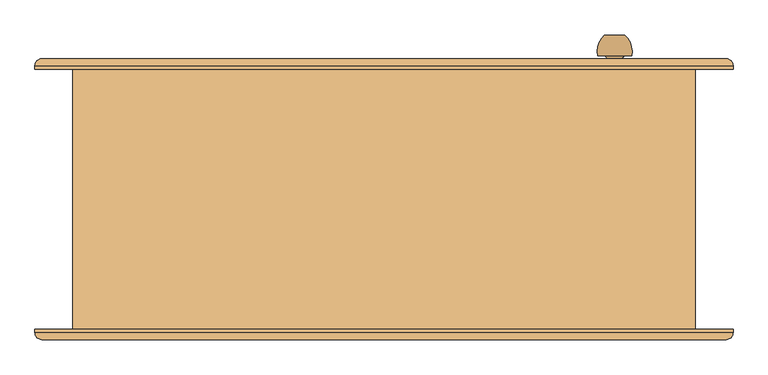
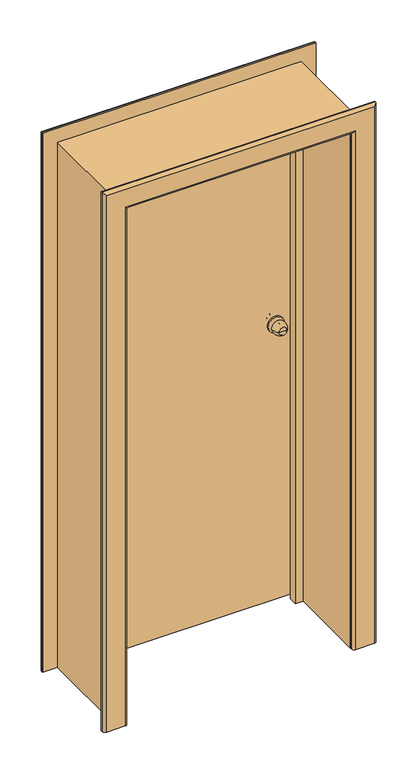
"""IFC4 building model written with IfcOpenShell, lengths in millimetres: door geometry, Внутренняя дверь 1-Навесная - 6629-88 : ДГ 21-9Л  ГОСТ 6629-88."""

from ifc_helpers import new_model, si_unit, point, frame, origin, place, context, project, spatial, polyline, circle_curve, ellipse_curve, trimmed, outline, extrude, faceted_brep, source, transform, mapped, element, save
from ifc_brep_helpers import plane_surface, cylinder_surface, revolved_surface, advanced_brep


def door_972d3b8f(model_context):
    return source(origin(), model_context, "Body", "SolidModel", [
        advanced_brep(
        [(352.0, 240.0, 1100.0), (337.0, 240.0, 1100.0), (322.0, 240.0, 1100.0), (312.0, 210.0, 1100.0), (362.0, 210.0, 1100.0), (319.0, 210.0, 1100.0), (355.0, 210.0, 1100.0), (327.0, 202.0, 1100.0), (347.0, 202.0, 1100.0), (327.0, 196.0, 1100.0), (347.0, 196.0, 1100.0), (307.0, 196.0, 1100.0), (367.0, 196.0, 1100.0), (307.0, 190.0, 1100.0), (367.0, 190.0, 1100.0)],
        [
            (0, 1),
            (1, 2),
            (2, 0, circle_curve(frame((337.0, 240.0, 1100.0), z_axis=(0.0, 1.0, 0.0), x_axis=(-1.0, 0.0, 0.0)), 15.0)),
            (0, 2, circle_curve(frame((337.0, 240.0, 1100.0), z_axis=(0.0, 1.0, 0.0), x_axis=(-1.0, 0.0, 0.0)), 15.0)),
            (2, 3, circle_curve(frame((346.6226265, 215.1257912, 1100.0), z_axis=(0.0, 0.0, 1.0), x_axis=(1.0, 0.0, 0.0)), 35.0)),
            (3, 4, circle_curve(frame((337.0, 210.0, 1100.0), z_axis=(0.0, 1.0, 0.0), x_axis=(-1.0, 0.0, 0.0)), 25.0)),
            (4, 0, circle_curve(frame((327.3773735, 215.1257912, 1100.0), z_axis=(0.0, 0.0, 1.0), x_axis=(-1.0, 0.0, 0.0)), 35.0)),
            (4, 3, circle_curve(frame((337.0, 210.0, 1100.0), z_axis=(0.0, 1.0, 0.0), x_axis=(-1.0, 0.0, 0.0)), 25.0)),
            (3, 5),
            (5, 6, circle_curve(frame((337.0, 210.0, 1100.0), z_axis=(0.0, 1.0, 0.0), x_axis=(-1.0, 0.0, 0.0)), 18.0)),
            (6, 4),
            (6, 5, circle_curve(frame((337.0, 210.0, 1100.0), z_axis=(0.0, 1.0, 0.0), x_axis=(-1.0, 0.0, 0.0)), 18.0)),
            (5, 7, circle_curve(frame((319.0, 202.0, 1100.0), z_axis=(0.0, 0.0, -1.0), x_axis=(1.0, 0.0, 0.0)), 8.0)),
            (7, 8, circle_curve(frame((337.0, 202.0, 1100.0), z_axis=(0.0, 1.0, 0.0), x_axis=(-1.0, 0.0, 0.0)), 10.0)),
            (8, 6, circle_curve(frame((355.0, 202.0, 1100.0), z_axis=(0.0, 0.0, -1.0), x_axis=(-1.0, 0.0, 0.0)), 8.0)),
            (8, 7, circle_curve(frame((337.0, 202.0, 1100.0), z_axis=(0.0, 1.0, 0.0), x_axis=(-1.0, 0.0, 0.0)), 10.0)),
            (7, 9),
            (9, 10, circle_curve(frame((337.0, 196.0, 1100.0), z_axis=(0.0, 1.0, 0.0), x_axis=(-1.0, 0.0, 0.0)), 10.0)),
            (10, 8),
            (10, 9, circle_curve(frame((337.0, 196.0, 1100.0), z_axis=(0.0, 1.0, 0.0), x_axis=(-1.0, 0.0, 0.0)), 10.0)),
            (11, 12, circle_curve(frame((337.0, 196.0, 1100.0), z_axis=(0.0, 1.0, 0.0), x_axis=(1.0, 0.0, 0.0)), 30.0)),
            (12, 11, circle_curve(frame((337.0, 196.0, 1100.0), z_axis=(0.0, 1.0, 0.0), x_axis=(1.0, 0.0, 0.0)), 30.0)),
            (13, 14, circle_curve(frame((337.0, 190.0, 1100.0), z_axis=(0.0, -1.0, 0.0), x_axis=(1.0, 0.0, 0.0)), 30.0)),
            (14, 13, circle_curve(frame((337.0, 190.0, 1100.0), z_axis=(0.0, -1.0, 0.0), x_axis=(1.0, 0.0, 0.0)), 30.0)),
            (12, 14),
            (13, 11),
        ],
        [
            plane_surface(frame((337.0, 240.0, 1100.0), z_axis=(0.0, 1.0, 0.0), x_axis=(-1.0, 0.0, 0.0))),
            revolved_surface(trimmed(ellipse_curve(frame((346.6226265, 215.1257912, 1100.0), z_axis=(0.0, 0.0, 1.0), x_axis=(1.0, 0.0, 0.0)), 35.0, 35.0), [point((322.0, 240.0, 1100.0))], [point((312.0, 210.0, 1100.0))], True, "CARTESIAN"), (337.0, 270.0, 1100.0), (0.0, -1.0, 0.0)),
            plane_surface(frame((337.0, 210.0, 1100.0), z_axis=(0.0, -1.0, 0.0), x_axis=(-1.0, 0.0, 0.0))),
            revolved_surface(trimmed(ellipse_curve(frame((319.0, 202.0, 1100.0), z_axis=(0.0, 0.0, -1.0), x_axis=(1.0, 0.0, 0.0)), 8.0, 8.0), [point((319.0, 210.0, 1100.0))], [point((327.0, 202.0, 1100.0))], True, "CARTESIAN"), (337.0, 270.0, 1100.0), (0.0, -1.0, 0.0)),
            cylinder_surface(frame((337.0, 270.0, 1100.0), z_axis=(0.0, -1.0, 0.0), x_axis=(-1.0, 0.0, 0.0)), 10.0),
            plane_surface(frame((367.0, 196.0, 1100.0), z_axis=(0.0, 1.0, 0.0), x_axis=(0.0, 0.0, 1.0))),
            plane_surface(frame((367.0, 190.0, 1100.0), z_axis=(0.0, -1.0, 0.0), x_axis=(0.0, 0.0, -1.0))),
            cylinder_surface(frame((337.0, 190.0, 1100.0), z_axis=(0.0, 1.0, 0.0), x_axis=(1.0, 0.0, 0.0)), 30.0),
        ],
        [
            (0, [[1, 2, 3]]),
            (0, [[-1, 4, -2]]),
            (1, [[5, 6, 7, -3]]),
            (1, [[-7, 8, -5, -4]]),
            (2, [[9, 10, 11, -6]]),
            (2, [[-11, 12, -9, -8]]),
            (3, [[13, 14, 15, -10]]),
            (3, [[-15, 16, -13, -12]]),
            (4, [[17, 18, 19, -14]]),
            (4, [[-19, 20, -17, -16]]),
            (5, [[21, 22], [-20, -18]]),
            (6, [[23, 24]]),
            (7, [[25, -23, 26, -22]]),
            (7, [[-26, -24, -25, -21]]),
        ],
    ),
        advanced_brep(
        [(322.0, 103.0, 1100.0), (337.0, 103.0, 1100.0), (352.0, 103.0, 1100.0), (362.0, 133.0, 1100.0), (312.0, 133.0, 1100.0), (355.0, 133.0, 1100.0), (319.0, 133.0, 1100.0), (347.0, 141.0, 1100.0), (327.0, 141.0, 1100.0), (347.0, 147.0, 1100.0), (327.0, 147.0, 1100.0), (367.0, 147.0, 1100.0), (307.0, 147.0, 1100.0), (367.0, 153.0, 1100.0), (307.0, 153.0, 1100.0)],
        [
            (0, 1),
            (1, 2),
            (2, 0, circle_curve(frame((337.0, 103.0, 1100.0), z_axis=(0.0, -1.0, 0.0), x_axis=(1.0, 0.0, 0.0)), 15.0)),
            (0, 2, circle_curve(frame((337.0, 103.0, 1100.0), z_axis=(0.0, -1.0, 0.0), x_axis=(1.0, 0.0, 0.0)), 15.0)),
            (2, 3, circle_curve(frame((327.3773735, 127.8742088, 1100.0), z_axis=(0.0, 0.0, 1.0), x_axis=(-1.0, 0.0, 0.0)), 35.0)),
            (3, 4, circle_curve(frame((337.0, 133.0, 1100.0), z_axis=(0.0, -1.0, 0.0), x_axis=(1.0, 0.0, 0.0)), 25.0)),
            (4, 0, circle_curve(frame((346.6226265, 127.8742088, 1100.0), z_axis=(0.0, 0.0, 1.0), x_axis=(1.0, 0.0, 0.0)), 35.0)),
            (4, 3, circle_curve(frame((337.0, 133.0, 1100.0), z_axis=(0.0, -1.0, 0.0), x_axis=(1.0, 0.0, 0.0)), 25.0)),
            (3, 5),
            (5, 6, circle_curve(frame((337.0, 133.0, 1100.0), z_axis=(0.0, -1.0, 0.0), x_axis=(1.0, 0.0, 0.0)), 18.0)),
            (6, 4),
            (6, 5, circle_curve(frame((337.0, 133.0, 1100.0), z_axis=(0.0, -1.0, 0.0), x_axis=(1.0, 0.0, 0.0)), 18.0)),
            (5, 7, circle_curve(frame((355.0, 141.0, 1100.0), z_axis=(0.0, 0.0, -1.0), x_axis=(-1.0, 0.0, 0.0)), 8.0)),
            (7, 8, circle_curve(frame((337.0, 141.0, 1100.0), z_axis=(0.0, -1.0, 0.0), x_axis=(1.0, 0.0, 0.0)), 10.0)),
            (8, 6, circle_curve(frame((319.0, 141.0, 1100.0), z_axis=(0.0, 0.0, -1.0), x_axis=(1.0, 0.0, 0.0)), 8.0)),
            (8, 7, circle_curve(frame((337.0, 141.0, 1100.0), z_axis=(0.0, -1.0, 0.0), x_axis=(1.0, 0.0, 0.0)), 10.0)),
            (7, 9),
            (9, 10, circle_curve(frame((337.0, 147.0, 1100.0), z_axis=(0.0, -1.0, 0.0), x_axis=(1.0, 0.0, 0.0)), 10.0)),
            (10, 8),
            (10, 9, circle_curve(frame((337.0, 147.0, 1100.0), z_axis=(0.0, -1.0, 0.0), x_axis=(1.0, 0.0, 0.0)), 10.0)),
            (11, 12, circle_curve(frame((337.0, 147.0, 1100.0), z_axis=(0.0, -1.0, 0.0), x_axis=(-1.0, 0.0, 0.0)), 30.0)),
            (12, 11, circle_curve(frame((337.0, 147.0, 1100.0), z_axis=(0.0, -1.0, 0.0), x_axis=(-1.0, 0.0, 0.0)), 30.0)),
            (13, 14, circle_curve(frame((337.0, 153.0, 1100.0), z_axis=(0.0, 1.0, 0.0), x_axis=(-1.0, 0.0, 0.0)), 30.0)),
            (14, 13, circle_curve(frame((337.0, 153.0, 1100.0), z_axis=(0.0, 1.0, 0.0), x_axis=(-1.0, 0.0, 0.0)), 30.0)),
            (12, 14),
            (13, 11),
        ],
        [
            plane_surface(frame((337.0, 103.0, 1100.0), z_axis=(0.0, -1.0, 0.0), x_axis=(1.0, 0.0, 0.0))),
            revolved_surface(trimmed(ellipse_curve(frame((327.3773735, 127.8742088, 1100.0), z_axis=(0.0, 0.0, 1.0), x_axis=(-1.0, 0.0, 0.0)), 35.0, 35.0), [point((352.0, 103.0, 1100.0))], [point((362.0, 133.0, 1100.0))], True, "CARTESIAN"), (337.0, 73.0, 1100.0), (0.0, 1.0, 0.0)),
            plane_surface(frame((337.0, 133.0, 1100.0), z_axis=(0.0, 1.0, 0.0), x_axis=(1.0, 0.0, 0.0))),
            revolved_surface(trimmed(ellipse_curve(frame((355.0, 141.0, 1100.0), z_axis=(0.0, 0.0, -1.0), x_axis=(-1.0, 0.0, 0.0)), 8.0, 8.0), [point((355.0, 133.0, 1100.0))], [point((347.0, 141.0, 1100.0))], True, "CARTESIAN"), (337.0, 73.0, 1100.0), (0.0, 1.0, 0.0)),
            cylinder_surface(frame((337.0, 73.0, 1100.0), z_axis=(0.0, 1.0, 0.0), x_axis=(1.0, 0.0, 0.0)), 10.0),
            plane_surface(frame((307.0, 147.0, 1100.0), z_axis=(0.0, -1.0, 0.0), x_axis=(0.0, 0.0, 1.0))),
            plane_surface(frame((307.0, 153.0, 1100.0), z_axis=(0.0, 1.0, 0.0), x_axis=(0.0, 0.0, -1.0))),
            cylinder_surface(frame((337.0, 153.0, 1100.0), z_axis=(0.0, -1.0, 0.0), x_axis=(-1.0, 0.0, 0.0)), 30.0),
        ],
        [
            (0, [[1, 2, 3]]),
            (0, [[-1, 4, -2]]),
            (1, [[5, 6, 7, -3]]),
            (1, [[-7, 8, -5, -4]]),
            (2, [[9, 10, 11, -6]]),
            (2, [[-11, 12, -9, -8]]),
            (3, [[13, 14, 15, -10]]),
            (3, [[-15, 16, -13, -12]]),
            (4, [[17, 18, 19, -14]]),
            (4, [[-19, 20, -17, -16]]),
            (5, [[21, 22], [-20, -18]]),
            (6, [[23, 24]]),
            (7, [[25, -23, 26, -22]]),
            (7, [[-26, -24, -25, -21]]),
        ],
    ),
        extrude(outline(polyline([(0.0, 435.0), (2050.0, 435.0), (2050.0, -435.0), (0.0, -435.0), (0.0, -420.0), (2035.0, -420.0), (2035.0, 420.0), (0.0, 420.0), (0.0, 435.0)])), frame((0.0, -190.0, 0.0), z_axis=(0.0, 1.0, 0.0), x_axis=(0.0, 0.0, 1.0)), (0.0, 0.0, 1.0), 306.0),
        advanced_brep(
        [(-510.0, 190.0, 0.0), (-510.0, 195.0, 0.0), (-500.0, 205.0, 0.0), (-430.0, 205.0, 0.0), (-420.0, 195.0, 0.0), (-420.0, 190.0, 0.0), (-420.0, 190.0, 2035.0), (420.0, 190.0, 2035.0), (420.0, 190.0, 0.0), (510.0, 190.0, 0.0), (510.0, 190.0, 2125.0), (-510.0, 190.0, 2125.0), (-420.0, 195.0, 2035.0), (-430.0, 205.0, 2045.0), (-500.0, 205.0, 2115.0), (500.0, 205.0, 2115.0), (500.0, 205.0, 0.0), (430.0, 205.0, 0.0), (430.0, 205.0, 2045.0), (-510.0, 195.0, 2125.0), (510.0, 195.0, 0.0), (510.0, 195.0, 2125.0), (420.0, 195.0, 0.0), (420.0, 195.0, 2035.0)],
        [
            (0, 1),
            (1, 2, circle_curve(frame((-500.0, 195.0, 0.0), z_axis=(0.0, 0.0, -1.0), x_axis=(-1.0, 0.0, 0.0)), 10.0)),
            (2, 3),
            (3, 4, circle_curve(frame((-430.0, 195.0, 0.0), z_axis=(0.0, 0.0, -1.0), x_axis=(-1.0, 0.0, 0.0)), 10.0)),
            (4, 5),
            (5, 0),
            (5, 6),
            (6, 7),
            (7, 8),
            (8, 9),
            (9, 10),
            (10, 11),
            (11, 0),
            (4, 12),
            (12, 6),
            (3, 13),
            (13, 12, ellipse_curve(frame((-430.0, 195.0, 2045.0), z_axis=(-0.7071067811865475, 0.0, -0.7071067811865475), x_axis=(0.7071067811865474, 0.0, -0.7071067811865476)), 14.1421356, 10.0)),
            (2, 14),
            (14, 15),
            (15, 16),
            (16, 17),
            (17, 18),
            (18, 13),
            (1, 19),
            (19, 14, ellipse_curve(frame((-500.0, 195.0, 2115.0), z_axis=(-0.7071067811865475, 0.0, -0.7071067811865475), x_axis=(0.7071067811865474, 0.0, -0.7071067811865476)), 14.1421356, 10.0)),
            (11, 19),
            (9, 20),
            (20, 21),
            (21, 10),
            (8, 22),
            (22, 17, circle_curve(frame((430.0, 195.0, 0.0), z_axis=(0.0, 0.0, -1.0), x_axis=(1.0, 0.0, 0.0)), 10.0)),
            (16, 20, circle_curve(frame((500.0, 195.0, 0.0), z_axis=(0.0, 0.0, -1.0), x_axis=(1.0, 0.0, 0.0)), 10.0)),
            (23, 22),
            (7, 23),
            (23, 18, ellipse_curve(frame((430.0, 195.0, 2045.0), z_axis=(0.7071067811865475, 0.0, -0.7071067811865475), x_axis=(0.7071067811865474, 0.0, 0.7071067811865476)), 14.1421356, 10.0)),
            (15, 21, ellipse_curve(frame((500.0, 195.0, 2115.0), z_axis=(0.7071067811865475, 0.0, -0.7071067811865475), x_axis=(0.7071067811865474, 0.0, 0.7071067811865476)), 14.1421356, 10.0)),
            (12, 23),
            (19, 21),
        ],
        [
            plane_surface(frame((-455.0, 190.0, 0.0), z_axis=(0.0, 0.0, -1.0), x_axis=(0.0, -1.0, 0.0))),
            plane_surface(frame((-510.0, 190.0, 0.0), z_axis=(0.0, -1.0, 0.0), x_axis=(0.0, 0.0, 1.0))),
            plane_surface(frame((-420.0, 190.0, 0.0), z_axis=(1.0, 0.0, 0.0), x_axis=(0.0, 0.0, 1.0))),
            cylinder_surface(frame((-430.0, 195.0, 0.0), z_axis=(0.0, 0.0, -1.0), x_axis=(-1.0, 0.0, 0.0)), 10.0),
            plane_surface(frame((-430.0, 205.0, 0.0), z_axis=(0.0, 1.0, 0.0), x_axis=(0.0, 0.0, 1.0))),
            cylinder_surface(frame((-500.0, 195.0, 0.0), z_axis=(0.0, 0.0, -1.0), x_axis=(-1.0, 0.0, 0.0)), 10.0),
            plane_surface(frame((-510.0, 195.0, 0.0), z_axis=(-1.0, 0.0, 0.0), x_axis=(0.0, 0.0, 1.0))),
            plane_surface(frame((510.0, 195.0, 2125.0), z_axis=(1.0, 0.0, 0.0), x_axis=(0.0, 0.0, -1.0))),
            plane_surface(frame((455.0, 190.0, 0.0), z_axis=(0.0, 0.0, -1.0), x_axis=(0.0, -1.0, 0.0))),
            plane_surface(frame((420.0, 190.0, 2035.0), z_axis=(-1.0, 0.0, 0.0), x_axis=(0.0, 0.0, -1.0))),
            cylinder_surface(frame((430.0, 195.0, 2070.0), z_axis=(0.0, 0.0, 1.0), x_axis=(1.0, 0.0, 0.0)), 10.0),
            cylinder_surface(frame((500.0, 195.0, 2070.0), z_axis=(0.0, 0.0, 1.0), x_axis=(1.0, 0.0, 0.0)), 10.0),
            plane_surface(frame((-420.0, 190.0, 2035.0), z_axis=(0.0, 0.0, -1.0), x_axis=(1.0, 0.0, 0.0))),
            cylinder_surface(frame((-455.0, 195.0, 2045.0), z_axis=(-1.0, 0.0, 0.0), x_axis=(0.0, 0.0, 1.0)), 10.0),
            cylinder_surface(frame((-455.0, 195.0, 2115.0), z_axis=(-1.0, 0.0, 0.0), x_axis=(0.0, 0.0, 1.0)), 10.0),
            plane_surface(frame((-510.0, 195.0, 2125.0), z_axis=(0.0, 0.0, 1.0), x_axis=(1.0, 0.0, 0.0))),
        ],
        [
            (0, [[1, 2, 3, 4, 5, 6]]),
            (1, [[7, 8, 9, 10, 11, 12, 13, -6]]),
            (2, [[14, 15, -7, -5]]),
            (3, [[16, 17, -14, -4]]),
            (4, [[18, 19, 20, 21, 22, 23, -16, -3]]),
            (5, [[24, 25, -18, -2]]),
            (6, [[-13, 26, -24, -1]]),
            (7, [[-11, 27, 28, 29]]),
            (8, [[-10, 30, 31, -21, 32, -27]]),
            (9, [[33, -30, -9, 34]]),
            (10, [[-22, -31, -33, 35]]),
            (11, [[-28, -32, -20, 36]]),
            (12, [[37, -34, -8, -15]]),
            (13, [[-23, -35, -37, -17]]),
            (14, [[38, -36, -19, -25]]),
            (15, [[-12, -29, -38, -26]]),
        ],
    ),
        advanced_brep(
        [(510.0, -190.0, 0.0), (510.0, -195.0, 0.0), (500.0, -205.0, 0.0), (430.0, -205.0, 0.0), (420.0, -195.0, 0.0), (420.0, -190.0, 0.0), (420.0, -190.0, 2035.0), (-420.0, -190.0, 2035.0), (-420.0, -190.0, 0.0), (-510.0, -190.0, 0.0), (-510.0, -190.0, 2125.0), (510.0, -190.0, 2125.0), (420.0, -195.0, 2035.0), (430.0, -205.0, 2045.0), (500.0, -205.0, 2115.0), (-500.0, -205.0, 2115.0), (-500.0, -205.0, 0.0), (-430.0, -205.0, 0.0), (-430.0, -205.0, 2045.0), (510.0, -195.0, 2125.0), (-510.0, -195.0, 0.0), (-510.0, -195.0, 2125.0), (-420.0, -195.0, 0.0), (-420.0, -195.0, 2035.0)],
        [
            (0, 1),
            (1, 2, circle_curve(frame((500.0, -195.0, 0.0), z_axis=(0.0, 0.0, -1.0), x_axis=(1.0, 0.0, 0.0)), 10.0)),
            (2, 3),
            (3, 4, circle_curve(frame((430.0, -195.0, 0.0), z_axis=(0.0, 0.0, -1.0), x_axis=(1.0, 0.0, 0.0)), 10.0)),
            (4, 5),
            (5, 0),
            (5, 6),
            (6, 7),
            (7, 8),
            (8, 9),
            (9, 10),
            (10, 11),
            (11, 0),
            (4, 12),
            (12, 6),
            (3, 13),
            (13, 12, ellipse_curve(frame((430.0, -195.0, 2045.0), z_axis=(0.7071067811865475, 0.0, -0.7071067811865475), x_axis=(-0.7071067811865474, 0.0, -0.7071067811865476)), 14.1421356, 10.0)),
            (2, 14),
            (14, 15),
            (15, 16),
            (16, 17),
            (17, 18),
            (18, 13),
            (1, 19),
            (19, 14, ellipse_curve(frame((500.0, -195.0, 2115.0), z_axis=(0.7071067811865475, 0.0, -0.7071067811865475), x_axis=(-0.7071067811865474, 0.0, -0.7071067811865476)), 14.1421356, 10.0)),
            (11, 19),
            (9, 20),
            (20, 21),
            (21, 10),
            (8, 22),
            (22, 17, circle_curve(frame((-430.0, -195.0, 0.0), z_axis=(0.0, 0.0, -1.0), x_axis=(-1.0, 0.0, 0.0)), 10.0)),
            (16, 20, circle_curve(frame((-500.0, -195.0, 0.0), z_axis=(0.0, 0.0, -1.0), x_axis=(-1.0, 0.0, 0.0)), 10.0)),
            (23, 22),
            (7, 23),
            (23, 18, ellipse_curve(frame((-430.0, -195.0, 2045.0), z_axis=(-0.7071067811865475, 0.0, -0.7071067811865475), x_axis=(-0.7071067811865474, 0.0, 0.7071067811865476)), 14.1421356, 10.0)),
            (15, 21, ellipse_curve(frame((-500.0, -195.0, 2115.0), z_axis=(-0.7071067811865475, 0.0, -0.7071067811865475), x_axis=(-0.7071067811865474, 0.0, 0.7071067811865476)), 14.1421356, 10.0)),
            (12, 23),
            (19, 21),
        ],
        [
            plane_surface(frame((455.0, -190.0, 0.0), z_axis=(0.0, 0.0, -1.0), x_axis=(0.0, 1.0, 0.0))),
            plane_surface(frame((510.0, -190.0, 0.0), z_axis=(0.0, 1.0, 0.0), x_axis=(0.0, 0.0, 1.0))),
            plane_surface(frame((420.0, -190.0, 0.0), z_axis=(-1.0, 0.0, 0.0), x_axis=(0.0, 0.0, 1.0))),
            cylinder_surface(frame((430.0, -195.0, 0.0), z_axis=(0.0, 0.0, -1.0), x_axis=(1.0, 0.0, 0.0)), 10.0),
            plane_surface(frame((430.0, -205.0, 0.0), z_axis=(0.0, -1.0, 0.0), x_axis=(0.0, 0.0, 1.0))),
            cylinder_surface(frame((500.0, -195.0, 0.0), z_axis=(0.0, 0.0, -1.0), x_axis=(1.0, 0.0, 0.0)), 10.0),
            plane_surface(frame((510.0, -195.0, 0.0), z_axis=(1.0, 0.0, 0.0), x_axis=(0.0, 0.0, 1.0))),
            plane_surface(frame((-510.0, -195.0, 2125.0), z_axis=(-1.0, 0.0, 0.0), x_axis=(0.0, 0.0, -1.0))),
            plane_surface(frame((-455.0, -190.0, 0.0), z_axis=(0.0, 0.0, -1.0), x_axis=(0.0, 1.0, 0.0))),
            plane_surface(frame((-420.0, -190.0, 2035.0), z_axis=(1.0, 0.0, 0.0), x_axis=(0.0, 0.0, -1.0))),
            cylinder_surface(frame((-430.0, -195.0, 2070.0), z_axis=(0.0, 0.0, 1.0), x_axis=(-1.0, 0.0, 0.0)), 10.0),
            cylinder_surface(frame((-500.0, -195.0, 2070.0), z_axis=(0.0, 0.0, 1.0), x_axis=(-1.0, 0.0, 0.0)), 10.0),
            plane_surface(frame((420.0, -190.0, 2035.0), z_axis=(0.0, 0.0, -1.0), x_axis=(-1.0, 0.0, 0.0))),
            cylinder_surface(frame((455.0, -195.0, 2045.0), z_axis=(1.0, 0.0, 0.0), x_axis=(0.0, 0.0, 1.0)), 10.0),
            cylinder_surface(frame((455.0, -195.0, 2115.0), z_axis=(1.0, 0.0, 0.0), x_axis=(0.0, 0.0, 1.0)), 10.0),
            plane_surface(frame((510.0, -195.0, 2125.0), z_axis=(0.0, 0.0, 1.0), x_axis=(-1.0, 0.0, 0.0))),
        ],
        [
            (0, [[1, 2, 3, 4, 5, 6]]),
            (1, [[7, 8, 9, 10, 11, 12, 13, -6]]),
            (2, [[14, 15, -7, -5]]),
            (3, [[16, 17, -14, -4]]),
            (4, [[18, 19, 20, 21, 22, 23, -16, -3]]),
            (5, [[24, 25, -18, -2]]),
            (6, [[-13, 26, -24, -1]]),
            (7, [[-11, 27, 28, 29]]),
            (8, [[-10, 30, 31, -21, 32, -27]]),
            (9, [[33, -30, -9, 34]]),
            (10, [[-22, -31, -33, 35]]),
            (11, [[-28, -32, -20, 36]]),
            (12, [[37, -34, -8, -15]]),
            (13, [[-23, -35, -37, -17]]),
            (14, [[38, -36, -19, -25]]),
            (15, [[-12, -29, -38, -26]]),
        ],
    ),
        faceted_brep([(390.0, 116.0, 0.0), (390.0, 148.0, 0.0), (402.0, 148.0, 0.0), (402.0, 190.0, 0.0), (435.0, 190.0, 0.0), (435.0, 116.0, 0.0), (435.0, 116.0, 2050.0), (-435.0, 116.0, 2050.0), (-435.0, 116.0, 0.0), (-390.0, 116.0, 0.0), (-390.0, 116.0, 2005.0), (390.0, 116.0, 2005.0), (435.0, 190.0, 2050.0), (402.0, 190.0, 2017.0), (-402.0, 190.0, 2017.0), (-402.0, 190.0, 0.0), (-435.0, 190.0, 0.0), (-435.0, 190.0, 2050.0), (402.0, 148.0, 2017.0), (390.0, 148.0, 2005.0), (-390.0, 148.0, 2005.0), (-390.0, 148.0, 0.0), (-402.0, 148.0, 0.0), (-402.0, 148.0, 2017.0)], [[[0, 1, 2, 3, 4, 5]], [[5, 6, 7, 8, 9, 10, 11, 0]], [[4, 12, 6, 5]], [[3, 13, 14, 15, 16, 17, 12, 4]], [[2, 18, 13, 3]], [[1, 19, 20, 21, 22, 23, 18, 2]], [[0, 11, 19, 1]], [[10, 9, 21, 20]], [[9, 8, 16, 15, 22, 21]], [[17, 16, 8, 7]], [[23, 22, 15, 14]], [[12, 17, 7, 6]], [[18, 23, 14, 13]], [[11, 10, 20, 19]]]),
        extrude(outline(polyline([(0.0, 455.0), (2070.0, 455.0), (2070.0, -455.0), (0.0, -455.0), (0.0, -435.0), (2050.0, -435.0), (2050.0, 435.0), (0.0, 435.0), (0.0, 455.0)])), frame((0.0, -190.0, 0.0), z_axis=(0.0, 1.0, 0.0), x_axis=(0.0, 0.0, 1.0)), (0.0, 0.0, 1.0), 380.0),
        extrude(outline(polyline([(397.0, 153.0), (-397.0, 153.0), (-397.0, 190.0), (397.0, 190.0), (397.0, 153.0)])), frame((0.0, 0.0, 15.0), z_axis=(0.0, 0.0, 1.0), x_axis=(1.0, 0.0, 0.0)), (0.0, 0.0, 1.0), 1997.0),
    ])


if __name__ == "__main__":
    model = new_model("IFC4")
    model_context = context("Model", 3, world=origin())
    ifc_project = project(units=[si_unit("LENGTHUNIT", "METRE", prefix="MILLI")], contexts=[model_context])
    site = spatial("IfcSite", under=ifc_project)
    building = spatial("IfcBuilding", under=site)
    placement = place(None, origin())
    door_shape = door_972d3b8f(model_context)
    element("IfcDoor", 1, ObjectType="Внутренняя дверь 1-Навесная - 6629-88 : ДГ 21-9Л  ГОСТ 6629-88", at=placement, inside=building, context=model_context, shape_type="MappedRepresentation", body=[
        mapped(door_shape, transform((0.0, 0.0, 0.0), x_axis=(1.0, 0.0, 0.0), y_axis=(0.0, 1.0, 0.0), z_axis=(0.0, 0.0, 1.0))),
    ])
    save(model, "model.ifc")
